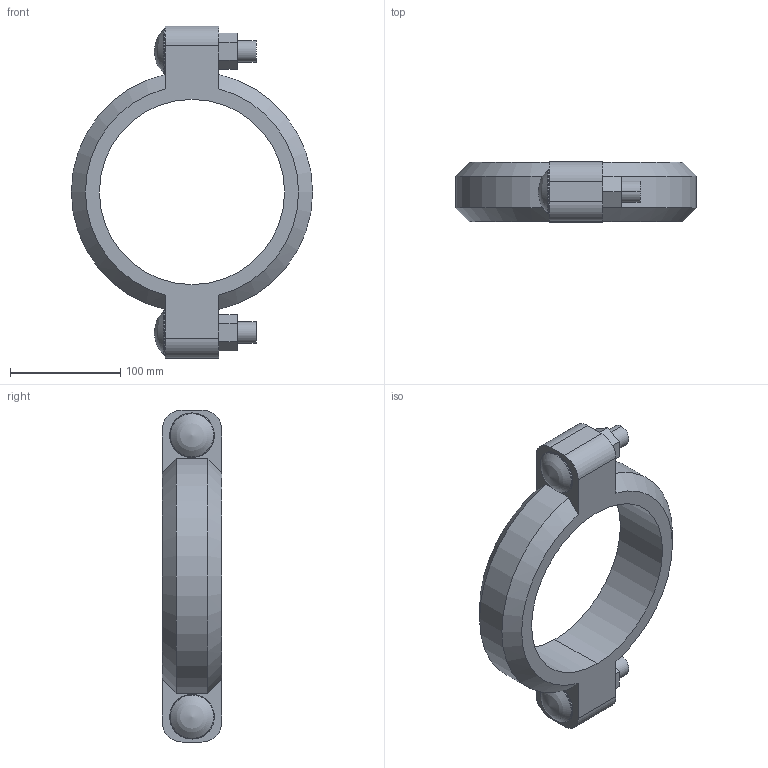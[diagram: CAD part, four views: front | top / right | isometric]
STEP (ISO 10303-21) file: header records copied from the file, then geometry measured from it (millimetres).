
FILE_DESCRIPTION (( 'STEP AP203' ), '1' );
FILE_NAME ('CPLG_06.0 (150)_77.STEP', '2014-05-08T17:14:42', ( '' ), ( '' ), 'SwSTEP 2.0', 'SolidWorks 2012', '' );
FILE_SCHEMA (( 'CONFIG_CONTROL_DESIGN' ));
Length unit declared in the file: inch
Products named in the file (1): CPLG_06.0 (150)_77
Bounding box: 219.2 x 54.1 x 301.75 mm (x, y, z)
Surface area: 113220.6 mm2 (no closed solid volume)
Topology: 0 solids, 3 shells, 52 faces, 130 edges, 88 vertices
Faces by surface type: plane 24, cylinder 16, bspline 8, cone 4
Entity records: 3269 total; most frequent: CARTESIAN_POINT 1981, ORIENTED_EDGE 256, DIRECTION 232, EDGE_CURVE 130, VERTEX_POINT 88, AXIS2_PLACEMENT_3D 81, VECTOR 70, LINE 70
